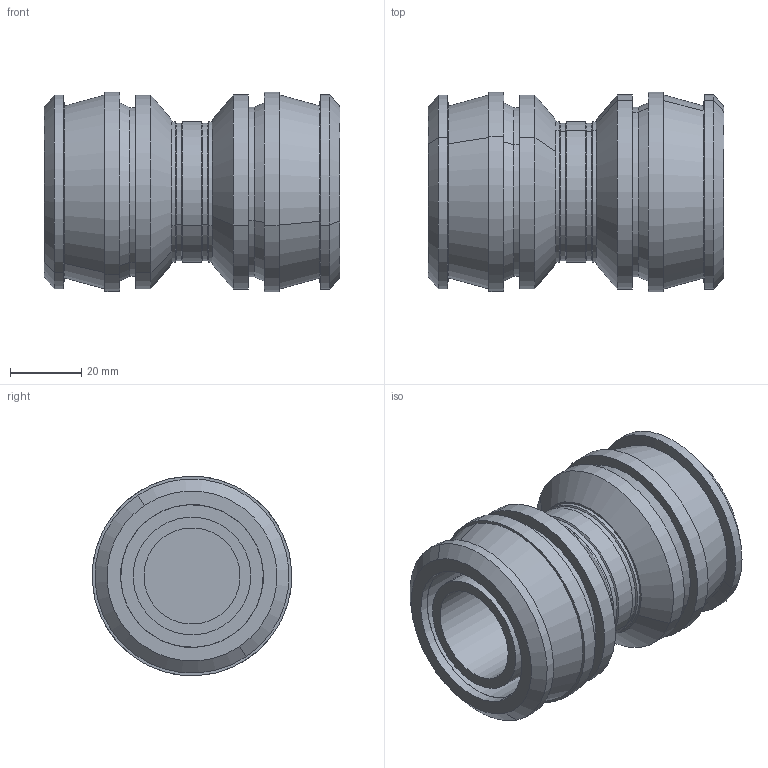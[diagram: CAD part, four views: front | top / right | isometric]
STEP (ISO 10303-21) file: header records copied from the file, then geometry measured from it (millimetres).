
FILE_DESCRIPTION(('STEP AP214'),'1');
FILE_NAME('pim0004789.stp','2017-02-09T10:50:11',('cad-pim'),('TransMagic, Inc.'),'TMR12sp0','TransMagic R12',' ');
FILE_SCHEMA(('AUTOMOTIVE_DESIGN'));
Length unit declared in the file: millimetre
Products named in the file (1): pim0004789 (1)
Bounding box: 83 x 56 x 56 mm (x, y, z)
Volume: 111992.9 mm3; surface area: 37755.9 mm2
Topology: 1 solids, 1 shells, 88 faces, 174 edges, 104 vertices
Faces by surface type: bspline 88
Entity records: 4622 total; most frequent: CARTESIAN_POINT 1051, ORIENTED_EDGE 348, STYLED_ITEM 343, PRESENTATION_STYLE_ASSIGNMENT 343, COLOUR_RGB 343, DIRECTION 280, EDGE_CURVE 174, CURVE_STYLE 162
